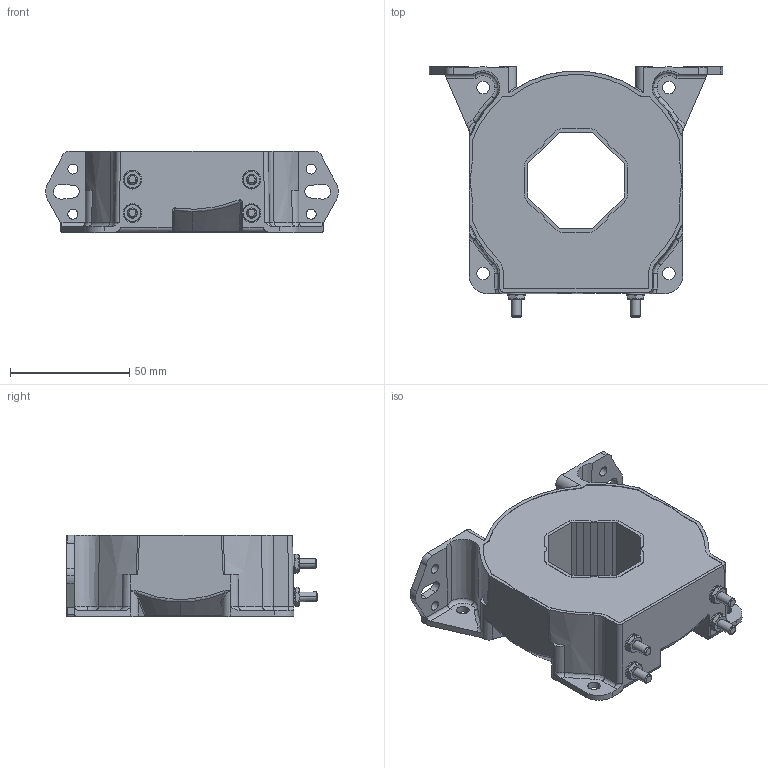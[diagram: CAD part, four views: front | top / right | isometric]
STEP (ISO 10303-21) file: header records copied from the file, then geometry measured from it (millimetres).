
FILE_DESCRIPTION(('CoCreate Modeling STEP Export'),'2;1');
FILE_NAME('LF 1005-S_SP33_Blackbox.stp','2009-05-26T11:54:09',(''),(''),'CoCreate Modeling STEP processor for AP214 (Solid Model)','CoCreate Modeling 16.00A 16-Aug-2008 (C) Parametric Technology GmbH','');
FILE_SCHEMA(('AUTOMOTIVE_DESIGN { 1 0 10303 214 1 1 1 1 }'));
Length unit declared in the file: millimetre
Products named in the file (18): Boîtier_blackbox; ecrou_Body_1; rondelle_Body_1; vis-M4_Body_1; borne.1.1; ecrou_Body_2; rondelle_Body_2; vis-M4_Body_2; borne.1.1.1; ecrou_Body_3; rondelle_Body_3; vis-M4_Body_3; borne.1.1.1.1; ecrou_Body_4; rondelle_Body_4; vis-M4_Body_4; borne.1.1.1.1.1; LF1005-S_SP33_Blackbox
Assembly tree (17 placements, depth 3):
  LF1005-S_SP33_Blackbox
    borne.1.1.1.1.1
      vis-M4_Body_4
      rondelle_Body_4
      ecrou_Body_4
    borne.1.1.1.1
      vis-M4_Body_3
      rondelle_Body_3
      ecrou_Body_3
    borne.1.1.1
      vis-M4_Body_2
      rondelle_Body_2
      ecrou_Body_2
    borne.1.1
      vis-M4_Body_1
      rondelle_Body_1
      ecrou_Body_1
    Boîtier_blackbox
Bounding box: 123 x 105.28 x 34.3 mm (x, y, z)
Volume: 203403.4 mm3; surface area: 38806 mm2
Topology: 13 solids, 18 shells, 1246 faces, 3295 edges, 2153 vertices
Faces by surface type: plane 802, cylinder 233, cone 88, bspline 79, extrusion 27, torus 17
Entity records: 49107 total; most frequent: CARTESIAN_POINT 19338, ORIENTED_EDGE 6582, DIRECTION 5227, EDGE_CURVE 3291, VECTOR 2295, LINE 2268, VERTEX_POINT 2153, AXIS2_PLACEMENT_3D 1466
